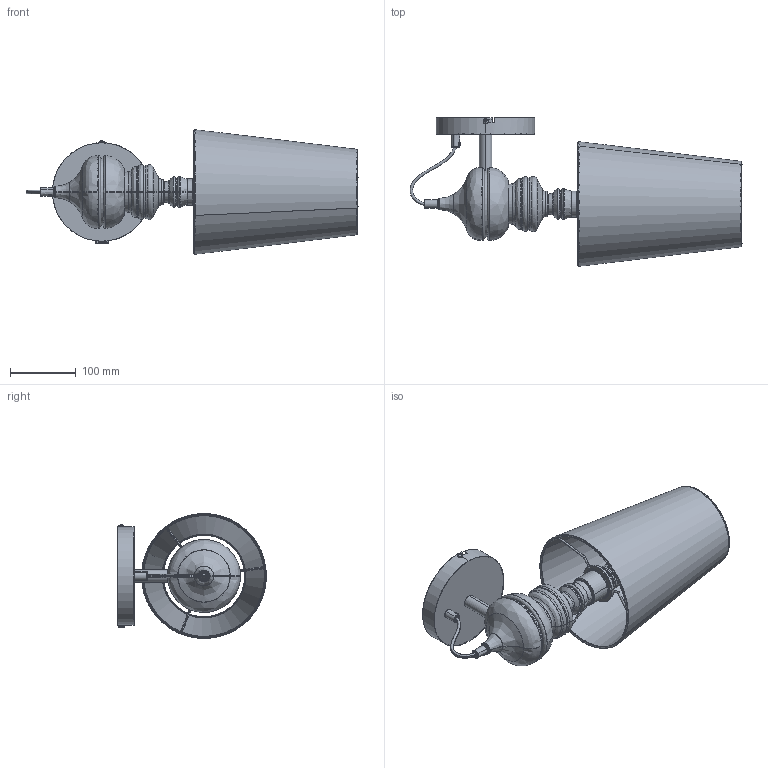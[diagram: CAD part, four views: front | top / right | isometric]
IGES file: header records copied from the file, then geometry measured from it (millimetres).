
Start section: SolidWorks IGES file using analytic representation for surfaces
Global section: file name: E:\3D lampy\Alaska\Alaska_5754.IGS; native system: SolidWorks 2016; preprocessor: SolidWorks 2016; author: Asia; date: 171016.125401; units: millimetre
Bounding box: 505.7 x 226.36 x 189.95 mm (x, y, z)
Surface area: 508408.2 mm2 (no closed solid volume)
Topology: 0 solids, 0 shells, 525 faces, 8095 edges, 8075 vertices
Faces by surface type: bspline 329, revolution 196
